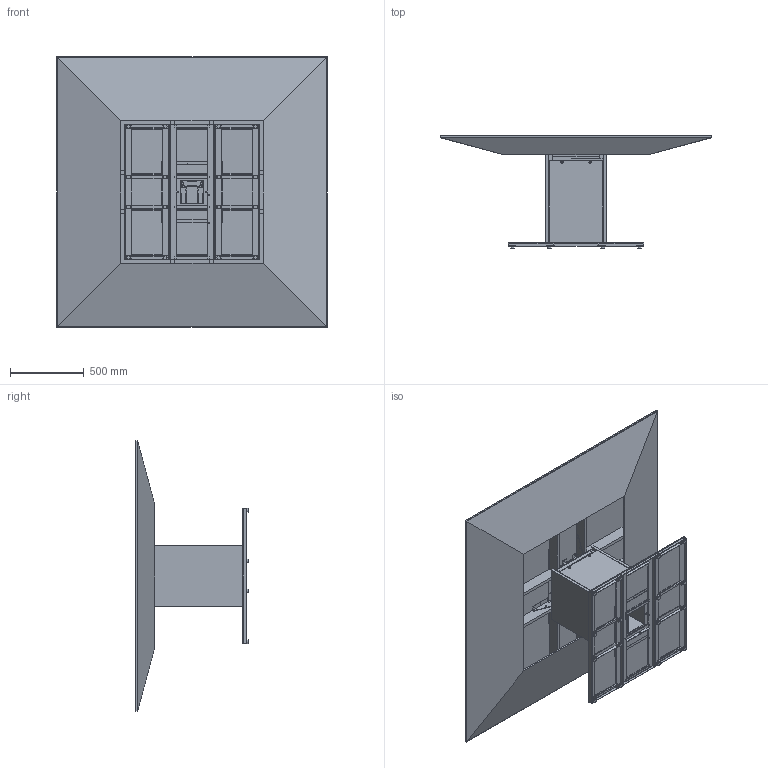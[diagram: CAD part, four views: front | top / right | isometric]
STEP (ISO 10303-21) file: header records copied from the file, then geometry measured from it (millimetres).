
FILE_DESCRIPTION(/* description */ ('','CAx-IF Rec.Pracs.---Representation and Presentation of Product Manufacturing Information (PMI)---4.0---2014-10-13'),/* implementation_level */ '2;1');
FILE_NAME(/* name */ 'AERO^TA2.stp',/* time_stamp */ '2024-12-05T17:17:07-05:00',/* author */ ('mbowman'),/* organization */ (''),/* preprocessor_version */ 'ST-DEVELOPER v19.2',/* originating_system */ 'Autodesk Inventor 2023',/* authorisation */ '');
FILE_SCHEMA (('AP242_MANAGED_MODEL_BASED_3D_ENGINEERING_MIM_LF { 1 0 10303 442 1 1 4 }'));
Products named in the file (61): AERO^TABLE 2_ATS1S-484801; AERO^TABLE 2__AMC-101010; AERO^TABLE 2_H-QFTC102425; AERO^TABLE 2_x-000000-BTM PLT35; AERO^TABLE 2__AMC-630-AL^COLUMN FRAME36; AERO^TABLE 2__AMC-630-AL^COLUMN - MOUNTING RAIL34; AERO^TABLE 2_H-QFTC1224^REMOV PLATE33; AERO^TABLE 2_H-QFTC1024^REMOV PLATE38; AERO^TABLE 2_NUT 25-2037; AERO^TABLE 2_QDESIGN-BASE-VER01-END PNL - LFT30; AERO^TABLE 2_QDESIGN-BASE-VER01-BCK PNL27; AERO^TABLE 2_QDESIGN-BASE-VER01-END PNL - RHT29; AERO^TABLE 2_QDESIGN-BASE-VER01-DOOR26; AERO^TABLE 2_QDESIGN-BASE-VER01-DOOR PNL39; AERO^TABLE 2_QDESIGN-BASE-VER01-DOOR PNL-VEN VER41; AERO^TABLE 2_QDESIGN-BASE-VER01-DOOR PNL-VEN HOR40; AERO^TABLE 2__AMC-1010^BRUSH STRIP HOUSING28; Z-CLIP 25in THK - (HL-131); CONNECTOR BOLT 25x1-25; AERO^TABLE 2_H-QSQCB09; AERO^TABLE 2_CENTER TROUGH - (H-QTRG10) - END LEVER21; AERO^TABLE 2_CENTER TROUGH - (H-QTRG10) - INTERIOR ANGLE22; AERO^TABLE 2_CENTER TROUGH - (H-QTRG10) - SIDE LEVER - 0123; AERO^TABLE 2_CENTER TROUGH - (H-QTRG10) - SIDE LEVER - 0224; AERO^TABLE 2_MODIFIED H-QTRG1013; AERO^TABLE 2_ATS1S-6060^Shroud 0107; AERO^TABLE 2_ATS1S-6060^CNTLVR BLK06; AERO^TABLE 2_ATS1S-6060^CNTLVR BLK SHRT05; AERO^TABLE 2_ATS1S-6060^PVD DOOR04; AERO^TABLE 2_ATS1S-6060^PVD DOOR PNL46; AERO^TABLE 2_ATS1S-6060^PVD DOOR PNL BCK EB44; AERO^TABLE 2_ATS1S-6060^PVD DOOR PNL BCK EB44_1; AERO^TABLE 2_ATS1S-6060^PVD DOOR PNL LFT EB45; AERO^TABLE 2_ATS1S-6060^PVD DOOR PNL LFT EB45_1; AERO^TABLE 2_ATS1SD-6060^TOP03; AERO^TABLE 2_ATS1S-6060^TOP43; AERO^TABLE 2_ATS1SD-6060^DOOR OPN EB42; AERO^TABLE 2_ATS1SD-6060^DOOR OPN EB42_1; AERO^TABLE 2_H-QFSB2708; AERO^TABLE 2__AMC-630-AL^BASE FRAME20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
Assembly tree (138 placements, depth 5):
  AERO^TABLE 2_ATS1S-484801
    AERO^TABLE 2__AMC-101010
      AERO^TABLE 2_H-QFTC102425
        AERO^TABLE 2_x-000000-BTM PLT35  x2
        AERO^TABLE 2__AMC-630-AL^COLUMN FRAME36
        AERO^TABLE 2__AMC-630-AL^COLUMN - MOUNTING RAIL34  x2
        AERO^TABLE 2_H-QFTC1224^REMOV PLATE33
          AERO^TABLE 2_H-QFTC1024^REMOV PLATE38
          AERO^TABLE 2_NUT 25-2037  x6
      AERO^TABLE 2_QDESIGN-BASE-VER01-END PNL - LFT30  x2
      AERO^TABLE 2_QDESIGN-BASE-VER01-BCK PNL27
      AERO^TABLE 2_QDESIGN-BASE-VER01-END PNL - RHT29  x2
      AERO^TABLE 2_QDESIGN-BASE-VER01-DOOR26
        AERO^TABLE 2_QDESIGN-BASE-VER01-DOOR PNL39
        AERO^TABLE 2_QDESIGN-BASE-VER01-DOOR PNL-VEN VER41  x2
        AERO^TABLE 2_QDESIGN-BASE-VER01-DOOR PNL-VEN HOR40  x2
      AERO^TABLE 2__AMC-1010^BRUSH STRIP HOUSING28
      Z-CLIP 25in THK - (HL-131)  x2
      CONNECTOR BOLT 25x1-25  x2
    AERO^TABLE 2_H-QSQCB09
      AERO^TABLE 2_CENTER TROUGH - (H-QTRG10) - END LEVER21  x2
      AERO^TABLE 2_CENTER TROUGH - (H-QTRG10) - INTERIOR ANGLE22  x2
      AERO^TABLE 2_CENTER TROUGH - (H-QTRG10) - SIDE LEVER - 0123  x2
      AERO^TABLE 2_CENTER TROUGH - (H-QTRG10) - SIDE LEVER - 0224  x2
    AERO^TABLE 2_MODIFIED H-QTRG1013
    AERO^TABLE 2_ATS1S-6060^Shroud 0107  x4
    AERO^TABLE 2_ATS1S-6060^CNTLVR BLK06  x4
    AERO^TABLE 2_ATS1S-6060^CNTLVR BLK SHRT05  x4
    AERO^TABLE 2_ATS1S-6060^PVD DOOR04
      AERO^TABLE 2_ATS1S-6060^PVD DOOR PNL46
      AERO^TABLE 2_ATS1S-6060^PVD DOOR PNL BCK EB44
      AERO^TABLE 2_ATS1S-6060^PVD DOOR PNL BCK EB44_1
      AERO^TABLE 2_ATS1S-6060^PVD DOOR PNL LFT EB45
      AERO^TABLE 2_ATS1S-6060^PVD DOOR PNL LFT EB45_1
    AERO^TABLE 2_ATS1SD-6060^TOP03
      AERO^TABLE 2_ATS1S-6060^TOP43
      AERO^TABLE 2_ATS1SD-6060^DOOR OPN EB42
      AERO^TABLE 2_ATS1SD-6060^DOOR OPN EB42_1  x3
    AERO^TABLE 2_H-QFSB2708
      AERO^TABLE 2__AMC-630-AL^BASE FRAME20  x4
      AERO^TABLE 2__AMC-630-AL^BASE FRAME PLT19  x8
      AERO^TABLE 2__AMC-630-AL^BASE FRAME 0217  x16
      AERO^TABLE 2__AMC-630-AL^BASE FRAME20_1
      AERO^TABLE 2__AMC-630-AL^BASE FRAME20_2
      AERO^TABLE 2__AMC-1010^BASE FRAME PLT - INTERIOR18_2  x2
      AERO^TABLE 2__AMC-1010^BASE FRAME PLT - INTERIOR18
      AERO^TABLE 2__AMC-1010^BASE FRAME PLT - INTERIOR18_1
    GLIDE 1-4 (MM-324)  x16
    AERO^TABLE 2_H-QCSB27-SS11
    2024_10_23_14_22_01_0197
      2024_10_23_14_22_01_0369
      2024_10_23_14_22_01_0354
      2024_10_23_14_22_01_0338
      2024_10_23_14_22_01_0322
      2024_10_23_14_22_01_0307
      2024_10_23_14_22_01_0291
      2024_10_23_14_22_01_0275
      Base PLate 1
    2024_10_23_14_22_01_0197_1
      2024_10_23_14_22_01_0369
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Bounding box: 1828.8 x 758.25 x 1828.8 mm (x, y, z)
Volume: 154775630.2 mm3; surface area: 20831470 mm2
Topology: 130 solids, 130 shells, 3006 faces, 7797 edges, 5162 vertices
Faces by surface type: plane 2213, cylinder 737, cone 30, bspline 18, sphere 8
Full cylindrical faces by diameter (mm): 0 x2, 2.5 x18, 2.63 x6, 2.8 x2, 3 x10, 3.11 x6, 3.242 x2, 4.496 x64, 4.5 x10, 4.762 x18, 4.928 x4, 4.978 x22, 5.77 x2, 6.35 x24, 6.604 x2, 6.66 x2, 7 x2, 7.938 x37, 8 x2, 9.525 x8, 11.112 x16, 15.875 x2, 19.05 x4, 25.4 x16
Entity records: 62282 total; most frequent: CARTESIAN_POINT 12928, DIRECTION 9340, ORIENTED_EDGE 8456, EDGE_CURVE 4228, LINE 3304, VECTOR 3304, AXIS2_PLACEMENT_3D 3018, VERTEX_POINT 2793
